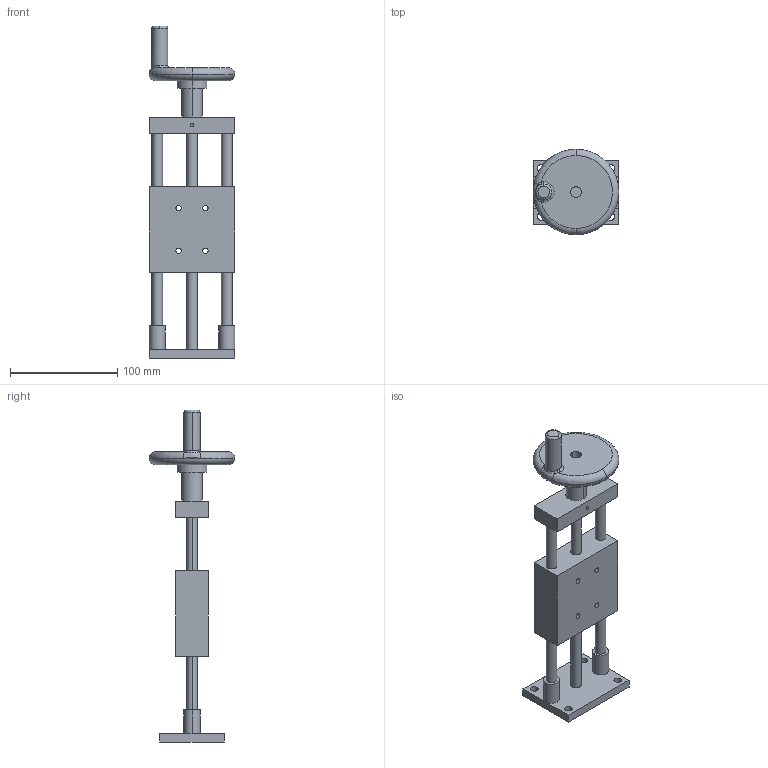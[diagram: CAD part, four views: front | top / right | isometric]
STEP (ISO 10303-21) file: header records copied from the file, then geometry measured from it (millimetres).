
FILE_DESCRIPTION (( 'STEP AP203' ), '1' );
FILE_NAME ('PT-SD504.STEP', '2022-04-16T03:35:51', ( '' ), ( '' ), 'SwSTEP 2.0', 'SolidWorks 2017', '' );
FILE_SCHEMA (( 'CONFIG_CONTROL_DESIGN' ));
Length unit declared in the file: millimetre
Products named in the file (3): PT-SD504; 忒謫2; 504
Assembly tree (2 placements, depth 2):
  PT-SD504
    504
    忒謫2
Bounding box: 80 x 80 x 310 mm (x, y, z)
Volume: 367627.5 mm3; surface area: 72849.8 mm2
Topology: 2 solids, 2 shells, 84 faces, 208 edges, 133 vertices
Faces by surface type: cylinder 43, plane 25, torus 10, bspline 4, cone 2
Entity records: 3157 total; most frequent: CARTESIAN_POINT 738, DIRECTION 484, ORIENTED_EDGE 412, EDGE_CURVE 206, AXIS2_PLACEMENT_3D 201, VERTEX_POINT 133, EDGE_LOOP 117, CIRCLE 116
